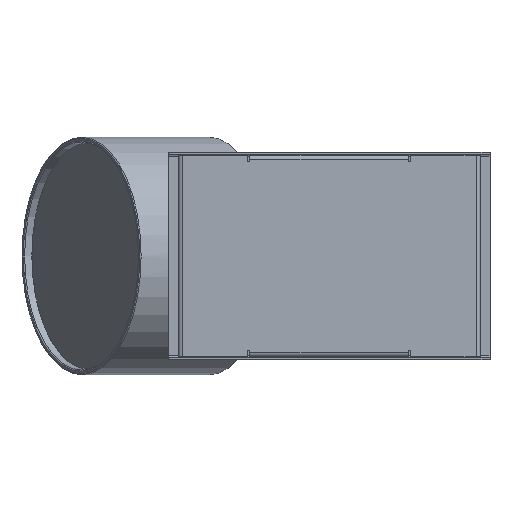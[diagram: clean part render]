
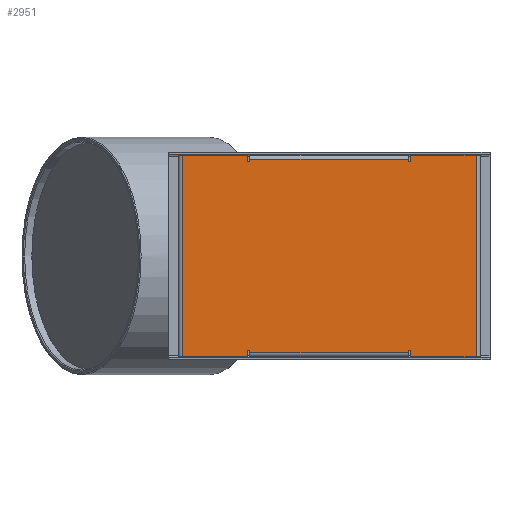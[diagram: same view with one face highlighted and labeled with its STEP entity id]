
A CAD part, left-side view. The second image highlights one B-rep face of the part: STEP entity #2951.
In plain terms, the highlighted planar face has unit normal (-1, 0, 0).
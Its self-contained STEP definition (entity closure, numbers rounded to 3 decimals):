
#140=PLANE('',#3279);
#304=FACE_OUTER_BOUND('',#481,.T.);
#481=EDGE_LOOP('',(#2533,#2534,#2535,#2536,#2537,#2538,#2539,#2540,#2541,
#2542,#2543,#2544,#2545,#2546,#2547,#2548,#2549,#2550,#2551,#2552,#2553,
#2554,#2555,#2556));
#604=CIRCLE('',#3227,0.5);
#607=CIRCLE('',#3232,0.5);
#609=CIRCLE('',#3238,0.5);
#610=CIRCLE('',#3241,0.5);
#612=CIRCLE('',#3246,0.5);
#615=CIRCLE('',#3251,0.5);
#617=CIRCLE('',#3257,0.5);
#618=CIRCLE('',#3260,0.5);
#823=LINE('',#4857,#1075);
#825=LINE('',#4866,#1077);
#830=LINE('',#4878,#1082);
#831=LINE('',#4880,#1083);
#832=LINE('',#4883,#1084);
#838=LINE('',#4898,#1090);
#840=LINE('',#4907,#1092);
#846=LINE('',#4919,#1098);
#848=LINE('',#4928,#1100);
#853=LINE('',#4940,#1105);
#854=LINE('',#4942,#1106);
#855=LINE('',#4945,#1107);
#859=LINE('',#4957,#1111);
#863=LINE('',#4968,#1115);
#875=LINE('',#4996,#1127);
#876=LINE('',#4998,#1128);
#1075=VECTOR('',#3977,10.);
#1077=VECTOR('',#3987,10.);
#1082=VECTOR('',#4000,10.);
#1083=VECTOR('',#4003,10.);
#1084=VECTOR('',#4006,10.);
#1090=VECTOR('',#4020,10.);
#1092=VECTOR('',#4030,10.);
#1098=VECTOR('',#4038,10.);
#1100=VECTOR('',#4048,10.);
#1105=VECTOR('',#4061,10.);
#1106=VECTOR('',#4064,10.);
#1107=VECTOR('',#4067,10.);
#1111=VECTOR('',#4079,10.);
#1115=VECTOR('',#4091,10.);
#1127=VECTOR('',#4135,10.);
#1128=VECTOR('',#4138,10.);
#1294=VERTEX_POINT('',#4703);
#1295=VERTEX_POINT('',#4709);
#1298=VERTEX_POINT('',#4717);
#1299=VERTEX_POINT('',#4723);
#1337=VERTEX_POINT('',#4841);
#1340=VERTEX_POINT('',#4849);
#1342=VERTEX_POINT('',#4854);
#1343=VERTEX_POINT('',#4859);
#1345=VERTEX_POINT('',#4865);
#1348=VERTEX_POINT('',#4873);
#1349=VERTEX_POINT('',#4882);
#1352=VERTEX_POINT('',#4890);
#1354=VERTEX_POINT('',#4895);
#1355=VERTEX_POINT('',#4900);
#1357=VERTEX_POINT('',#4906);
#1360=VERTEX_POINT('',#4913);
#1362=VERTEX_POINT('',#4917);
#1363=VERTEX_POINT('',#4921);
#1365=VERTEX_POINT('',#4927);
#1368=VERTEX_POINT('',#4935);
#1369=VERTEX_POINT('',#4944);
#1372=VERTEX_POINT('',#4952);
#1373=VERTEX_POINT('',#4956);
#1375=VERTEX_POINT('',#4962);
#1698=EDGE_CURVE('',#1337,#1342,#823,.T.);
#1699=EDGE_CURVE('',#1342,#1343,#604,.T.);
#1702=EDGE_CURVE('',#1343,#1345,#825,.T.);
#1706=EDGE_CURVE('',#1345,#1348,#607,.T.);
#1709=EDGE_CURVE('',#1348,#1294,#830,.T.);
#1710=EDGE_CURVE('',#1295,#1294,#831,.T.);
#1711=EDGE_CURVE('',#1295,#1349,#832,.T.);
#1715=EDGE_CURVE('',#1349,#1352,#609,.T.);
#1719=EDGE_CURVE('',#1352,#1354,#838,.T.);
#1720=EDGE_CURVE('',#1354,#1355,#610,.T.);
#1723=EDGE_CURVE('',#1355,#1357,#840,.T.);
#1729=EDGE_CURVE('',#1362,#1360,#846,.T.);
#1730=EDGE_CURVE('',#1360,#1363,#612,.T.);
#1733=EDGE_CURVE('',#1363,#1365,#848,.T.);
#1737=EDGE_CURVE('',#1365,#1368,#615,.T.);
#1740=EDGE_CURVE('',#1368,#1298,#853,.T.);
#1741=EDGE_CURVE('',#1299,#1298,#854,.T.);
#1742=EDGE_CURVE('',#1299,#1369,#855,.T.);
#1746=EDGE_CURVE('',#1369,#1372,#617,.T.);
#1748=EDGE_CURVE('',#1372,#1373,#859,.T.);
#1751=EDGE_CURVE('',#1373,#1375,#618,.T.);
#1754=EDGE_CURVE('',#1375,#1340,#863,.T.);
#1770=EDGE_CURVE('',#1337,#1340,#875,.T.);
#1771=EDGE_CURVE('',#1362,#1357,#876,.T.);
#2533=ORIENTED_EDGE('',*,*,#1770,.T.);
#2534=ORIENTED_EDGE('',*,*,#1754,.F.);
#2535=ORIENTED_EDGE('',*,*,#1751,.F.);
#2536=ORIENTED_EDGE('',*,*,#1748,.F.);
#2537=ORIENTED_EDGE('',*,*,#1746,.F.);
#2538=ORIENTED_EDGE('',*,*,#1742,.F.);
#2539=ORIENTED_EDGE('',*,*,#1741,.T.);
#2540=ORIENTED_EDGE('',*,*,#1740,.F.);
#2541=ORIENTED_EDGE('',*,*,#1737,.F.);
#2542=ORIENTED_EDGE('',*,*,#1733,.F.);
#2543=ORIENTED_EDGE('',*,*,#1730,.F.);
#2544=ORIENTED_EDGE('',*,*,#1729,.F.);
#2545=ORIENTED_EDGE('',*,*,#1771,.T.);
#2546=ORIENTED_EDGE('',*,*,#1723,.F.);
#2547=ORIENTED_EDGE('',*,*,#1720,.F.);
#2548=ORIENTED_EDGE('',*,*,#1719,.F.);
#2549=ORIENTED_EDGE('',*,*,#1715,.F.);
#2550=ORIENTED_EDGE('',*,*,#1711,.F.);
#2551=ORIENTED_EDGE('',*,*,#1710,.T.);
#2552=ORIENTED_EDGE('',*,*,#1709,.F.);
#2553=ORIENTED_EDGE('',*,*,#1706,.F.);
#2554=ORIENTED_EDGE('',*,*,#1702,.F.);
#2555=ORIENTED_EDGE('',*,*,#1699,.F.);
#2556=ORIENTED_EDGE('',*,*,#1698,.F.);
#2951=ADVANCED_FACE('',(#304),#140,.F.);
#3227=AXIS2_PLACEMENT_3D('',#4860,#3980,#3981);
#3232=AXIS2_PLACEMENT_3D('',#4874,#3994,#3995);
#3238=AXIS2_PLACEMENT_3D('',#4891,#4013,#4014);
#3241=AXIS2_PLACEMENT_3D('',#4901,#4023,#4024);
#3246=AXIS2_PLACEMENT_3D('',#4922,#4041,#4042);
#3251=AXIS2_PLACEMENT_3D('',#4936,#4055,#4056);
#3257=AXIS2_PLACEMENT_3D('',#4953,#4074,#4075);
#3260=AXIS2_PLACEMENT_3D('',#4963,#4084,#4085);
#3279=AXIS2_PLACEMENT_3D('',#4997,#4136,#4137);
#3977=DIRECTION('',(0.,0.,1.));
#3980=DIRECTION('center_axis',(-1.,0.,0.));
#3981=DIRECTION('ref_axis',(0.,-0.707,0.707));
#3987=DIRECTION('',(0.,0.,-1.));
#3994=DIRECTION('center_axis',(1.,0.,0.));
#3995=DIRECTION('ref_axis',(0.,-0.707,-0.707));
#4000=DIRECTION('',(0.,1.,0.));
#4003=DIRECTION('',(0.,0.,-1.));
#4006=DIRECTION('',(0.,-1.,0.));
#4013=DIRECTION('center_axis',(1.,0.,0.));
#4014=DIRECTION('ref_axis',(0.,-0.707,0.707));
#4020=DIRECTION('',(0.,0.,-1.));
#4023=DIRECTION('center_axis',(-1.,0.,0.));
#4024=DIRECTION('ref_axis',(0.,0.707,-0.707));
#4030=DIRECTION('',(0.,0.,1.));
#4038=DIRECTION('',(0.,0.,-1.));
#4041=DIRECTION('center_axis',(-1.,0.,0.));
#4042=DIRECTION('ref_axis',(0.,0.707,-0.707));
#4048=DIRECTION('',(0.,0.,1.));
#4055=DIRECTION('center_axis',(1.,0.,0.));
#4056=DIRECTION('ref_axis',(0.,0.707,0.707));
#4061=DIRECTION('',(0.,-1.,0.));
#4064=DIRECTION('',(0.,0.,1.));
#4067=DIRECTION('',(0.,1.,0.));
#4074=DIRECTION('center_axis',(1.,0.,0.));
#4075=DIRECTION('ref_axis',(0.,0.707,-0.707));
#4079=DIRECTION('',(0.,0.,1.));
#4084=DIRECTION('center_axis',(-1.,0.,0.));
#4085=DIRECTION('ref_axis',(0.,-0.707,0.707));
#4091=DIRECTION('',(0.,0.,-1.));
#4135=DIRECTION('',(0.,-1.,0.));
#4136=DIRECTION('center_axis',(1.,0.,0.));
#4137=DIRECTION('ref_axis',(0.,0.,-1.));
#4138=DIRECTION('',(0.,1.,0.));
#4703=CARTESIAN_POINT('',(0.,74.,-50.75));
#4709=CARTESIAN_POINT('',(0.,74.,50.75));
#4717=CARTESIAN_POINT('',(0.,-74.,50.75));
#4723=CARTESIAN_POINT('',(0.,-74.,-50.75));
#4841=CARTESIAN_POINT('',(0.,40.,-48.75));
#4849=CARTESIAN_POINT('',(0.,-40.,-48.75));
#4854=CARTESIAN_POINT('',(0.,40.,-48.));
#4857=CARTESIAN_POINT('',(0.,40.,-50.75));
#4859=CARTESIAN_POINT('',(0.,41.,-48.));
#4860=CARTESIAN_POINT('Origin',(0.,40.5,-48.));
#4865=CARTESIAN_POINT('',(0.,41.,-50.25));
#4866=CARTESIAN_POINT('',(0.,41.,-47.5));
#4873=CARTESIAN_POINT('',(0.,41.5,-50.75));
#4874=CARTESIAN_POINT('Origin',(0.,41.5,-50.25));
#4878=CARTESIAN_POINT('',(0.,41.,-50.75));
#4880=CARTESIAN_POINT('',(0.,74.,-25.375));
#4882=CARTESIAN_POINT('',(0.,41.5,50.75));
#4883=CARTESIAN_POINT('',(0.,76.,50.75));
#4890=CARTESIAN_POINT('',(0.,41.,50.25));
#4891=CARTESIAN_POINT('Origin',(0.,41.5,50.25));
#4895=CARTESIAN_POINT('',(0.,41.,48.));
#4898=CARTESIAN_POINT('',(0.,41.,50.75));
#4900=CARTESIAN_POINT('',(0.,40.,48.));
#4901=CARTESIAN_POINT('Origin',(0.,40.5,48.));
#4906=CARTESIAN_POINT('',(0.,40.,48.75));
#4907=CARTESIAN_POINT('',(0.,40.,47.5));
#4913=CARTESIAN_POINT('',(0.,-40.,48.));
#4917=CARTESIAN_POINT('',(0.,-40.,48.75));
#4919=CARTESIAN_POINT('',(0.,-40.,50.75));
#4921=CARTESIAN_POINT('',(0.,-41.,48.));
#4922=CARTESIAN_POINT('Origin',(0.,-40.5,48.));
#4927=CARTESIAN_POINT('',(0.,-41.,50.25));
#4928=CARTESIAN_POINT('',(0.,-41.,47.5));
#4935=CARTESIAN_POINT('',(0.,-41.5,50.75));
#4936=CARTESIAN_POINT('Origin',(0.,-41.5,50.25));
#4940=CARTESIAN_POINT('',(0.,-41.,50.75));
#4942=CARTESIAN_POINT('',(0.,-74.,25.375));
#4944=CARTESIAN_POINT('',(0.,-41.5,-50.75));
#4945=CARTESIAN_POINT('',(0.,-76.,-50.75));
#4952=CARTESIAN_POINT('',(0.,-41.,-50.25));
#4953=CARTESIAN_POINT('Origin',(0.,-41.5,-50.25));
#4956=CARTESIAN_POINT('',(0.,-41.,-48.));
#4957=CARTESIAN_POINT('',(0.,-41.,-50.75));
#4962=CARTESIAN_POINT('',(0.,-40.,-48.));
#4963=CARTESIAN_POINT('Origin',(0.,-40.5,-48.));
#4968=CARTESIAN_POINT('',(0.,-40.,-47.5));
#4996=CARTESIAN_POINT('',(0.,20.,-48.75));
#4997=CARTESIAN_POINT('Origin',(0.,0.,0.));
#4998=CARTESIAN_POINT('',(0.,-20.,48.75));
